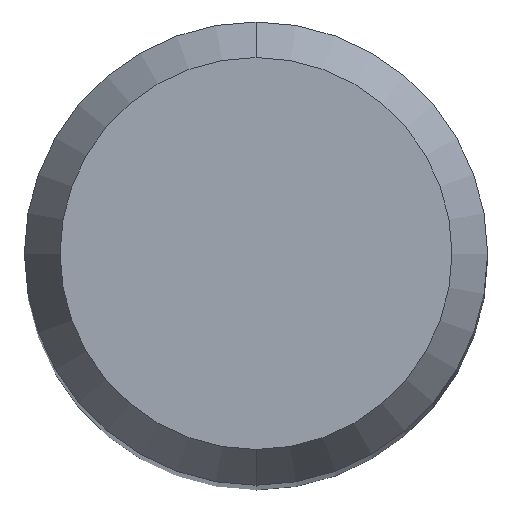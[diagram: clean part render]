
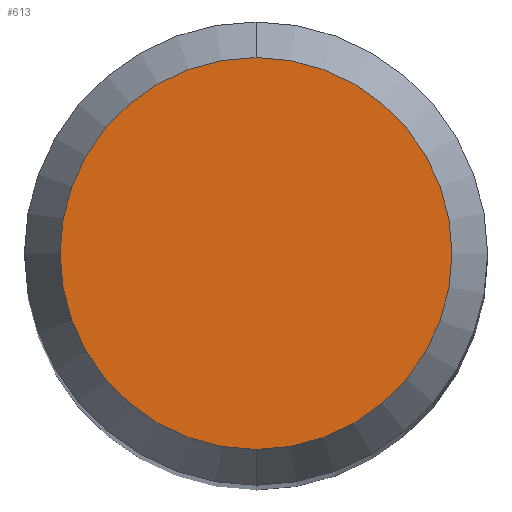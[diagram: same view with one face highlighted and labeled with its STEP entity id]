
A CAD part, top view. The second image highlights one B-rep face of the part: STEP entity #613.
In plain terms, the highlighted planar face has unit normal (0, 0, 1).
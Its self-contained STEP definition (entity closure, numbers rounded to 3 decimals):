
#323=VERTEX_POINT('',#738);
#327=EDGE_CURVE('',#573,#323,#742,.T.);
#399=EDGE_CURVE('',#323,#573,#826,.T.);
#573=VERTEX_POINT('',#1022);
#613=ADVANCED_FACE('',(#1064),#1065,.T.);
#738=CARTESIAN_POINT('',(0.0,2.538,0.0));
#742=CIRCLE('',#1338,2.538);
#826=CIRCLE('',#1450,2.538);
#1022=CARTESIAN_POINT('',(0.,-2.538,0.0));
#1064=FACE_OUTER_BOUND('',#1854,.T.);
#1065=PLANE('',#1855);
#1338=AXIS2_PLACEMENT_3D('',#1964,#1965,#1966);
#1450=AXIS2_PLACEMENT_3D('',#2107,#2108,#2109);
#1854=EDGE_LOOP('',(#2360,#2361));
#1855=AXIS2_PLACEMENT_3D('',#2362,#2363,#2364);
#1964=CARTESIAN_POINT('',(0.0,0.0,0.0));
#1965=DIRECTION('',(0.0,0.0,-1.0));
#1966=DIRECTION('',(0.0,1.0,0.0));
#2107=CARTESIAN_POINT('',(0.0,0.0,0.0));
#2108=DIRECTION('',(0.0,0.0,-1.0));
#2109=DIRECTION('',(0.0,1.0,0.0));
#2360=ORIENTED_EDGE('',*,*,#399,.F.);
#2361=ORIENTED_EDGE('',*,*,#327,.F.);
#2362=CARTESIAN_POINT('',(0.0,1.269,0.0));
#2363=DIRECTION('',(-0.0,0.0,1.0));
#2364=DIRECTION('',(0.0,-1.0,0.0));
